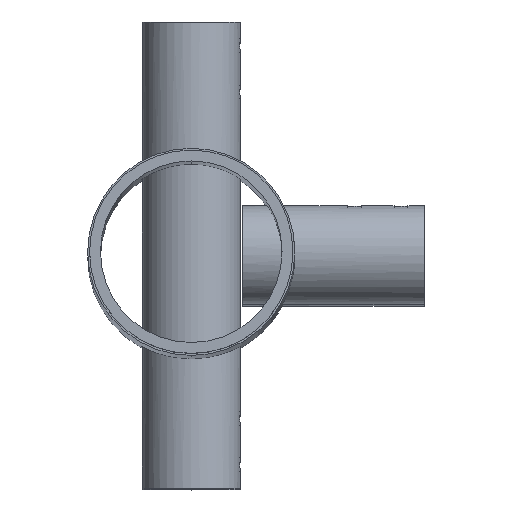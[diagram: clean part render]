
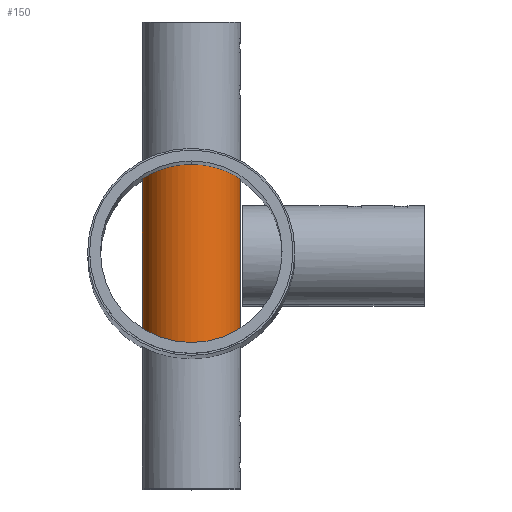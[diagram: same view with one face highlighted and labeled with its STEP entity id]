
A CAD part, top view. The second image highlights one B-rep face of the part: STEP entity #150.
In plain terms, the highlighted cylindrical face has radius 21.082 mm (diameter 42.164 mm), a partial arc.
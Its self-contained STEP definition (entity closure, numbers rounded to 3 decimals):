
#150=ADVANCED_FACE('',(#239),#987,.T.);
#239=FACE_OUTER_BOUND('',#341,.F.);
#341=EDGE_LOOP('',(#700,#701,#702,#703,#704,#705));
#700=ORIENTED_EDGE('',*,*,#1705,.T.);
#701=ORIENTED_EDGE('',*,*,#1600,.T.);
#702=ORIENTED_EDGE('',*,*,#1607,.T.);
#703=ORIENTED_EDGE('',*,*,#1703,.F.);
#704=ORIENTED_EDGE('',*,*,#1597,.F.);
#705=ORIENTED_EDGE('',*,*,#1598,.F.);
#987=CYLINDRICAL_SURFACE('',#2242,21.082);
#1399=LINE('',#4474,#1505);
#1401=LINE('',#4476,#1507);
#1505=VECTOR('',#2351,65.535);
#1507=VECTOR('',#2353,65.535);
#1597=EDGE_CURVE('',#2123,#2125,#1875,.T.);
#1598=EDGE_CURVE('',#2122,#2123,#1876,.T.);
#1600=EDGE_CURVE('',#2121,#2120,#1878,.T.);
#1607=EDGE_CURVE('',#2120,#2112,#1885,.T.);
#1703=EDGE_CURVE('',#2125,#2112,#1399,.T.);
#1705=EDGE_CURVE('',#2122,#2121,#1401,.T.);
#1875=B_SPLINE_CURVE_WITH_KNOTS('',3,(#3376,#3377,#3378,#3379,#3380,#3381,
#3382,#3383,#3384,#3385,#3386,#3387,#3388,#3389,#3390,#3391,#3392),.UNSPECIFIED.,
 .F.,.F.,(4,1,1,1,1,1,1,1,1,1,1,1,1,1,4),(0.,0.078,0.133,
0.201,0.269,0.338,0.408,0.48,
0.552,0.626,0.7,0.774,
0.849,0.912,1.),.UNSPECIFIED.);
#1876=B_SPLINE_CURVE_WITH_KNOTS('',3,(#3393,#3394,#3395,#3396,#3397,#3398,
#3399,#3400,#3401,#3402,#3403,#3404,#3405,#3406,#3407,#3408,#3409),.UNSPECIFIED.,
 .F.,.F.,(4,1,1,1,1,1,1,1,1,1,1,1,1,1,4),(0.,0.088,0.151,
0.226,0.3,0.374,0.448,
0.52,0.592,0.662,0.731,0.799,
0.867,0.922,1.),.UNSPECIFIED.);
#1878=B_SPLINE_CURVE_WITH_KNOTS('',3,(#3427,#3428,#3429,#3430,#3431,#3432,
#3433,#3434,#3435,#3436,#3437,#3438,#3439,#3440,#3441,#3442,#3443),.UNSPECIFIED.,
 .F.,.F.,(4,1,1,1,1,1,1,1,1,1,1,1,1,1,4),(0.,0.088,0.151,
0.226,0.3,0.374,0.448,
0.52,0.592,0.662,0.731,
0.799,0.867,0.922,1.),.UNSPECIFIED.);
#1885=B_SPLINE_CURVE_WITH_KNOTS('',3,(#3546,#3547,#3548,#3549,#3550,#3551,
#3552,#3553,#3554,#3555,#3556,#3557,#3558,#3559,#3560,#3561,#3562),.UNSPECIFIED.,
 .F.,.F.,(4,1,1,1,1,1,1,1,1,1,1,1,1,1,4),(0.,0.078,0.133,
0.201,0.269,0.338,0.408,
0.48,0.552,0.626,0.7,0.774,
0.849,0.912,1.),.UNSPECIFIED.);
#2112=VERTEX_POINT('',#2797);
#2120=VERTEX_POINT('',#2805);
#2121=VERTEX_POINT('',#2806);
#2122=VERTEX_POINT('',#2807);
#2123=VERTEX_POINT('',#2808);
#2125=VERTEX_POINT('',#2810);
#2242=AXIS2_PLACEMENT_3D('',#5291,#2574,#2575);
#2351=DIRECTION('',(0.,1.,0.));
#2353=DIRECTION('',(0.,1.,0.));
#2574=DIRECTION('',(0.,1.,0.));
#2575=DIRECTION('',(-1.,0.,0.));
#2797=CARTESIAN_POINT('',(1048.457,452.02,-408.126));
#2805=CARTESIAN_POINT('',(1027.375,458.216,-387.044));
#2806=CARTESIAN_POINT('',(1006.293,452.02,-408.126));
#2807=CARTESIAN_POINT('',(1006.293,386.485,-408.126));
#2808=CARTESIAN_POINT('',(1027.375,380.289,-387.044));
#2810=CARTESIAN_POINT('',(1048.457,386.485,-408.126));
#3376=CARTESIAN_POINT('',(1027.375,380.289,-387.044));
#3377=CARTESIAN_POINT('',(1028.249,380.289,-387.044));
#3378=CARTESIAN_POINT('',(1029.751,380.339,-387.138));
#3379=CARTESIAN_POINT('',(1031.975,380.543,-387.517));
#3380=CARTESIAN_POINT('',(1034.038,380.842,-388.082));
#3381=CARTESIAN_POINT('',(1036.153,381.27,-388.913));
#3382=CARTESIAN_POINT('',(1038.177,381.797,-389.973));
#3383=CARTESIAN_POINT('',(1040.089,382.404,-391.256));
#3384=CARTESIAN_POINT('',(1041.866,383.068,-392.754));
#3385=CARTESIAN_POINT('',(1043.486,383.762,-394.46));
#3386=CARTESIAN_POINT('',(1044.925,384.454,-396.362));
#3387=CARTESIAN_POINT('',(1046.158,385.107,-398.448));
#3388=CARTESIAN_POINT('',(1047.157,385.679,-400.699));
#3389=CARTESIAN_POINT('',(1047.857,386.104,-402.955));
#3390=CARTESIAN_POINT('',(1048.337,386.407,-405.439));
#3391=CARTESIAN_POINT('',(1048.457,386.485,-407.135));
#3392=CARTESIAN_POINT('',(1048.457,386.485,-408.126));
#3393=CARTESIAN_POINT('',(1006.293,386.485,-408.126));
#3394=CARTESIAN_POINT('',(1006.293,386.485,-407.135));
#3395=CARTESIAN_POINT('',(1006.413,386.407,-405.439));
#3396=CARTESIAN_POINT('',(1006.893,386.104,-402.955));
#3397=CARTESIAN_POINT('',(1007.593,385.679,-400.699));
#3398=CARTESIAN_POINT('',(1008.592,385.107,-398.448));
#3399=CARTESIAN_POINT('',(1009.825,384.454,-396.362));
#3400=CARTESIAN_POINT('',(1011.264,383.762,-394.46));
#3401=CARTESIAN_POINT('',(1012.884,383.068,-392.754));
#3402=CARTESIAN_POINT('',(1014.661,382.404,-391.256));
#3403=CARTESIAN_POINT('',(1016.573,381.797,-389.973));
#3404=CARTESIAN_POINT('',(1018.597,381.27,-388.913));
#3405=CARTESIAN_POINT('',(1020.712,380.842,-388.082));
#3406=CARTESIAN_POINT('',(1022.775,380.543,-387.517));
#3407=CARTESIAN_POINT('',(1024.999,380.339,-387.138));
#3408=CARTESIAN_POINT('',(1026.501,380.289,-387.044));
#3409=CARTESIAN_POINT('',(1027.375,380.289,-387.044));
#3427=CARTESIAN_POINT('',(1006.293,452.02,-408.126));
#3428=CARTESIAN_POINT('',(1006.293,452.02,-407.135));
#3429=CARTESIAN_POINT('',(1006.413,452.098,-405.439));
#3430=CARTESIAN_POINT('',(1006.893,452.4,-402.955));
#3431=CARTESIAN_POINT('',(1007.593,452.825,-400.699));
#3432=CARTESIAN_POINT('',(1008.592,453.398,-398.448));
#3433=CARTESIAN_POINT('',(1009.825,454.05,-396.362));
#3434=CARTESIAN_POINT('',(1011.264,454.742,-394.46));
#3435=CARTESIAN_POINT('',(1012.884,455.436,-392.754));
#3436=CARTESIAN_POINT('',(1014.661,456.101,-391.256));
#3437=CARTESIAN_POINT('',(1016.573,456.707,-389.973));
#3438=CARTESIAN_POINT('',(1018.597,457.234,-388.913));
#3439=CARTESIAN_POINT('',(1020.712,457.663,-388.082));
#3440=CARTESIAN_POINT('',(1022.775,457.961,-387.517));
#3441=CARTESIAN_POINT('',(1024.999,458.165,-387.138));
#3442=CARTESIAN_POINT('',(1026.501,458.216,-387.044));
#3443=CARTESIAN_POINT('',(1027.375,458.216,-387.044));
#3546=CARTESIAN_POINT('',(1027.375,458.216,-387.044));
#3547=CARTESIAN_POINT('',(1028.249,458.216,-387.044));
#3548=CARTESIAN_POINT('',(1029.751,458.165,-387.138));
#3549=CARTESIAN_POINT('',(1031.975,457.961,-387.517));
#3550=CARTESIAN_POINT('',(1034.038,457.663,-388.082));
#3551=CARTESIAN_POINT('',(1036.153,457.234,-388.913));
#3552=CARTESIAN_POINT('',(1038.177,456.707,-389.973));
#3553=CARTESIAN_POINT('',(1040.089,456.101,-391.256));
#3554=CARTESIAN_POINT('',(1041.866,455.436,-392.754));
#3555=CARTESIAN_POINT('',(1043.486,454.742,-394.46));
#3556=CARTESIAN_POINT('',(1044.925,454.05,-396.362));
#3557=CARTESIAN_POINT('',(1046.158,453.398,-398.448));
#3558=CARTESIAN_POINT('',(1047.157,452.825,-400.699));
#3559=CARTESIAN_POINT('',(1047.857,452.4,-402.955));
#3560=CARTESIAN_POINT('',(1048.337,452.098,-405.439));
#3561=CARTESIAN_POINT('',(1048.457,452.02,-407.135));
#3562=CARTESIAN_POINT('',(1048.457,452.02,-408.126));
#4474=CARTESIAN_POINT('',(1048.457,386.485,-408.126));
#4476=CARTESIAN_POINT('',(1006.293,386.485,-408.126));
#5291=CARTESIAN_POINT('',(1027.375,319.252,-408.126));
